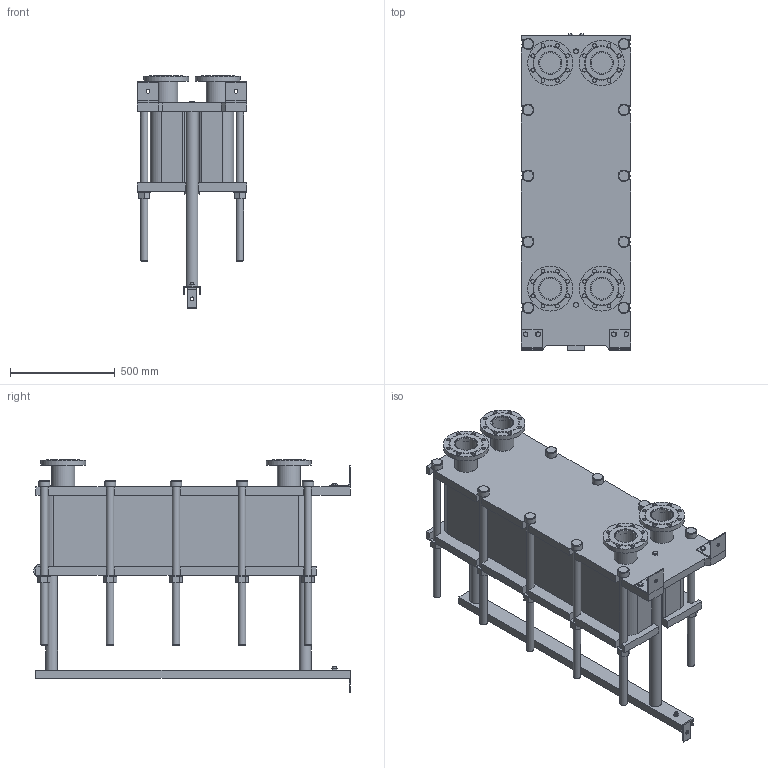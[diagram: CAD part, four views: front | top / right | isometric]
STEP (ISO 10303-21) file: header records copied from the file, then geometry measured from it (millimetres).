
FILE_DESCRIPTION(/* description */ (''),/* implementation_level */ '2;1');
FILE_NAME(/* name */ 'C:\Users\zhuro\Desktop\ENCO\TO\ЭН-04\ЭН-0,5-04-99-1.stp',/* time_stamp */ '2022-06-06T10:53:50+03:00',/* author */ ('zhuro'),/* organization */ (''),/* preprocessor_version */ 'ST-DEVELOPER v18.1',/* originating_system */ 'Autodesk Inventor 2022',/* authorisation */ '');
FILE_SCHEMA (('AUTOMOTIVE_DESIGN { 1 0 10303 214 3 1 1 }'));
Length unit declared in the file: millimetre
Products named in the file (1): ЭН-0,5-04-99-1
Bounding box: 520 x 1510 x 1109.5 mm (x, y, z)
Volume: 241843702.3 mm3; surface area: 8333271.9 mm2
Topology: 45 solids, 45 shells, 668 faces, 1611 edges, 1048 vertices
Faces by surface type: plane 457, cylinder 166, cone 39, torus 6
Full cylindrical faces by diameter (mm): 8 x4, 10 x2, 16 x8, 18 x35, 36 x25, 40 x2, 42 x1, 45 x4, 54 x10, 57 x2, 60 x10, 68 x2, 100 x4, 110 x8, 215 x4
Entity records: 23607 total; most frequent: CARTESIAN_POINT 7348, DIRECTION 3371, ORIENTED_EDGE 3142, EDGE_CURVE 1571, AXIS2_PLACEMENT_3D 1199, VERTEX_POINT 1044, LINE 973, VECTOR 973
